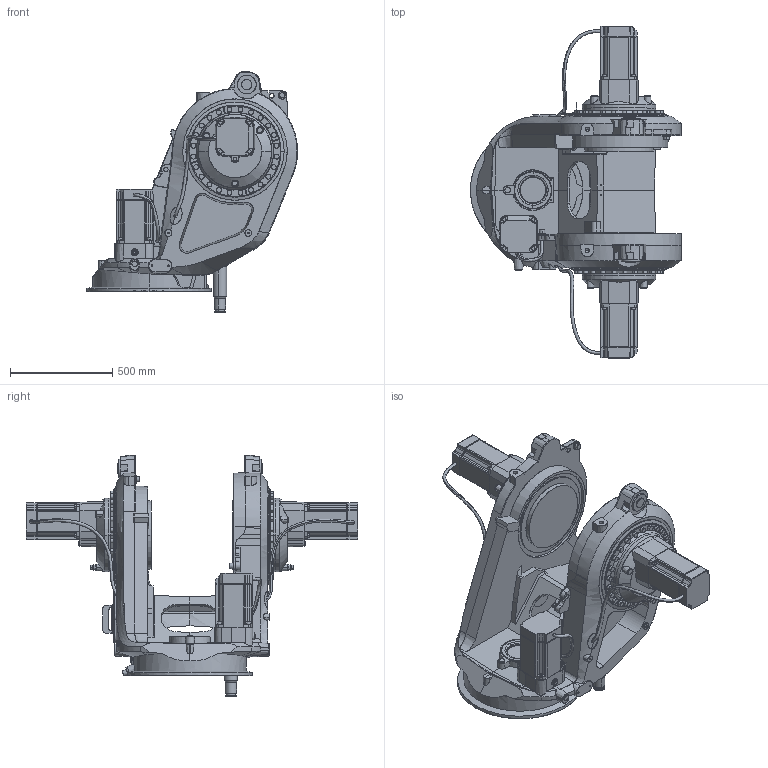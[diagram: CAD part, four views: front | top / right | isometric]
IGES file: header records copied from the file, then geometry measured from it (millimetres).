
Start section: SolidWorks IGES file using analytic representation for surfaces
Global section: file name: B:\DM\Robotics\SEROP_PROJ\Product Development\DevelopmentProjects\HD\3_Design PRMD\4_Struktur SAP o CAD\Lättmodeller\IRB8700-MH6_550-420\IRB8700-MH6_550-420_IRC5_IGES_j\IRB8700-MH6_550-420_IRC5_rev00_LINK1_CAD.IGS; native system: SolidWorks 2014; preprocessor: SolidWorks 2014; author: sepehak; date: 150604.102632; units: millimetre
Bounding box: 1030.96 x 1621 x 1179.79 mm (x, y, z)
Surface area: 5686374 mm2 (no closed solid volume)
Topology: 0 solids, 0 shells, 1472 faces, 24331 edges, 24315 vertices
Faces by surface type: bspline 866, revolution 606
